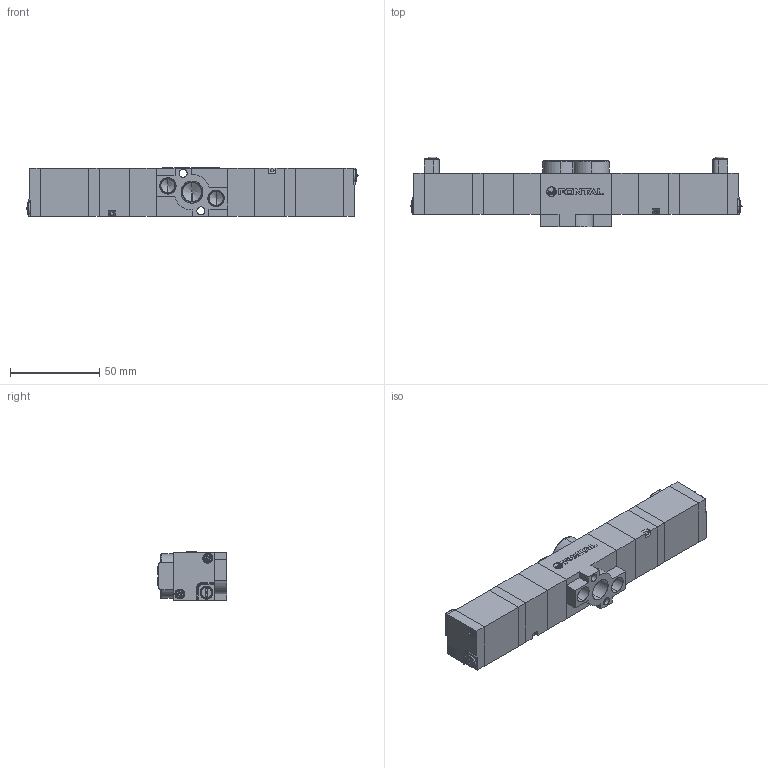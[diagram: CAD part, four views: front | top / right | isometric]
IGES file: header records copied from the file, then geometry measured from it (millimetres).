
Start section: SolidWorks IGES file using analytic representation for surfaces
Global section: file name: D:\Custom\3D繪製\PC\RC06\RCD3406-02-#L##.IGS,1; native system: 5HSolidWorks 2014; preprocessor: SolidWorks 2014; author: Chieh_Lu; date: 150803.214622; units: millimetre
Bounding box: 185.95 x 39 x 27.15 mm (x, y, z)
Surface area: 39700 mm2 (no closed solid volume)
Topology: 0 solids, 0 shells, 529 faces, 5410 edges, 5380 vertices
Faces by surface type: bspline 338, revolution 191
